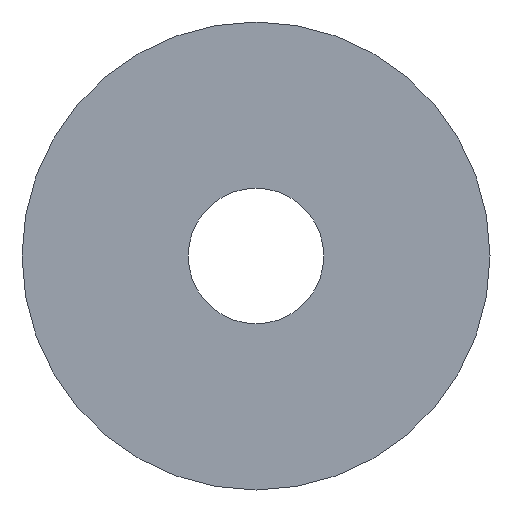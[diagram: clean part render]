
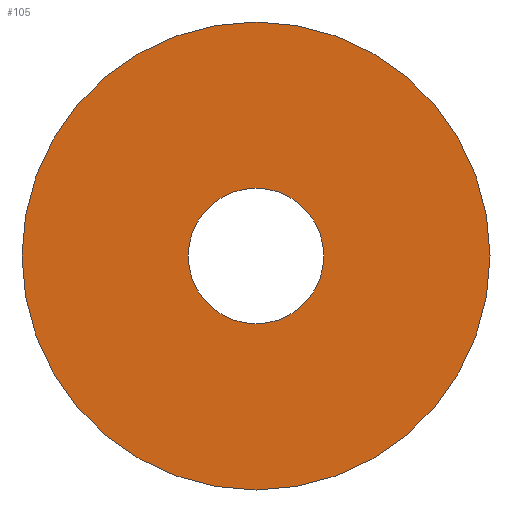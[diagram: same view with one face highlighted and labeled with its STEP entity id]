
A CAD part, left-side view. The second image highlights one B-rep face of the part: STEP entity #105.
In plain terms, the highlighted planar face has unit normal (-1, 0, 0).
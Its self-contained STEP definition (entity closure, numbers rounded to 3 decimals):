
#22 = VERTEX_POINT('',#23);
#23 = CARTESIAN_POINT('',(57.9,34.5,0.));
#32 = CYLINDRICAL_SURFACE('',#33,34.5);
#33 = AXIS2_PLACEMENT_3D('',#34,#35,#36);
#34 = CARTESIAN_POINT('',(57.9,0.,0.));
#35 = DIRECTION('',(-1.,-0.,-0.));
#36 = DIRECTION('',(0.,1.,0.));
#79 = EDGE_CURVE('',#22,#22,#80,.T.);
#80 = SURFACE_CURVE('',#81,(#86,#93),.PCURVE_S1.);
#81 = CIRCLE('',#82,34.5);
#82 = AXIS2_PLACEMENT_3D('',#83,#84,#85);
#83 = CARTESIAN_POINT('',(57.9,0.,0.));
#84 = DIRECTION('',(1.,0.,0.));
#85 = DIRECTION('',(0.,1.,0.));
#86 = PCURVE('',#32,#87);
#87 = DEFINITIONAL_REPRESENTATION('',(#88),#92);
#88 = LINE('',#89,#90);
#89 = CARTESIAN_POINT('',(-0.,0.));
#90 = VECTOR('',#91,1.);
#91 = DIRECTION('',(-1.,0.));
#92 = ( GEOMETRIC_REPRESENTATION_CONTEXT(2) 
PARAMETRIC_REPRESENTATION_CONTEXT() REPRESENTATION_CONTEXT('2D SPACE',''
  ) );
#93 = PCURVE('',#94,#99);
#94 = PLANE('',#95);
#95 = AXIS2_PLACEMENT_3D('',#96,#97,#98);
#96 = CARTESIAN_POINT('',(57.9,0.,0.));
#97 = DIRECTION('',(1.,0.,0.));
#98 = DIRECTION('',(-0.,0.,1.));
#99 = DEFINITIONAL_REPRESENTATION('',(#100),#104);
#100 = CIRCLE('',#101,34.5);
#101 = AXIS2_PLACEMENT_2D('',#102,#103);
#102 = CARTESIAN_POINT('',(0.,0.));
#103 = DIRECTION('',(0.,-1.));
#104 = ( GEOMETRIC_REPRESENTATION_CONTEXT(2) 
PARAMETRIC_REPRESENTATION_CONTEXT() REPRESENTATION_CONTEXT('2D SPACE',''
  ) );
#105 = ADVANCED_FACE('',(#106,#109),#94,.F.);
#106 = FACE_BOUND('',#107,.F.);
#107 = EDGE_LOOP('',(#108));
#108 = ORIENTED_EDGE('',*,*,#79,.T.);
#109 = FACE_BOUND('',#110,.F.);
#110 = EDGE_LOOP('',(#111));
#111 = ORIENTED_EDGE('',*,*,#112,.T.);
#112 = EDGE_CURVE('',#113,#113,#115,.T.);
#113 = VERTEX_POINT('',#114);
#114 = CARTESIAN_POINT('',(57.9,10.,0.));
#115 = SURFACE_CURVE('',#116,(#121,#132),.PCURVE_S1.);
#116 = CIRCLE('',#117,10.);
#117 = AXIS2_PLACEMENT_3D('',#118,#119,#120);
#118 = CARTESIAN_POINT('',(57.9,0.,0.));
#119 = DIRECTION('',(-1.,0.,0.));
#120 = DIRECTION('',(0.,1.,0.));
#121 = PCURVE('',#94,#122);
#122 = DEFINITIONAL_REPRESENTATION('',(#123),#131);
#123 = ( BOUNDED_CURVE() B_SPLINE_CURVE(2,(#124,#125,#126,#127,#128,#129
,#130),.UNSPECIFIED.,.T.,.F.) B_SPLINE_CURVE_WITH_KNOTS((1,2,2,2,2,1),(
    -2.094,0.,2.094,4.189,6.283,
8.378),.UNSPECIFIED.) CURVE() GEOMETRIC_REPRESENTATION_ITEM() 
RATIONAL_B_SPLINE_CURVE((1.,0.5,1.,0.5,1.,0.5,1.)) REPRESENTATION_ITEM(
  '') );
#124 = CARTESIAN_POINT('',(0.,-10.));
#125 = CARTESIAN_POINT('',(-17.321,-10.));
#126 = CARTESIAN_POINT('',(-8.66,5.));
#127 = CARTESIAN_POINT('',(0.,20.));
#128 = CARTESIAN_POINT('',(8.66,5.));
#129 = CARTESIAN_POINT('',(17.321,-10.));
#130 = CARTESIAN_POINT('',(0.,-10.));
#131 = ( GEOMETRIC_REPRESENTATION_CONTEXT(2) 
PARAMETRIC_REPRESENTATION_CONTEXT() REPRESENTATION_CONTEXT('2D SPACE',''
  ) );
#132 = PCURVE('',#133,#138);
#133 = CYLINDRICAL_SURFACE('',#134,10.);
#134 = AXIS2_PLACEMENT_3D('',#135,#136,#137);
#135 = CARTESIAN_POINT('',(56.9,0.,0.));
#136 = DIRECTION('',(-1.,-0.,-0.));
#137 = DIRECTION('',(0.,1.,0.));
#138 = DEFINITIONAL_REPRESENTATION('',(#139),#143);
#139 = LINE('',#140,#141);
#140 = CARTESIAN_POINT('',(-6.283,-1.));
#141 = VECTOR('',#142,1.);
#142 = DIRECTION('',(1.,-0.));
#143 = ( GEOMETRIC_REPRESENTATION_CONTEXT(2) 
PARAMETRIC_REPRESENTATION_CONTEXT() REPRESENTATION_CONTEXT('2D SPACE',''
  ) );
